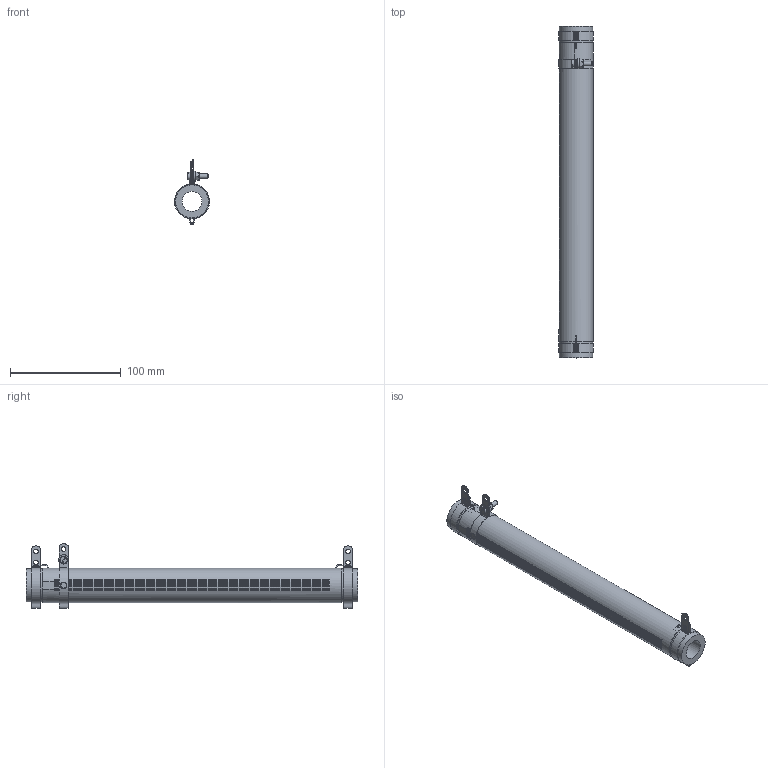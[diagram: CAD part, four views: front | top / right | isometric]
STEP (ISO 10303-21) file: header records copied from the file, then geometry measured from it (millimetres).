
FILE_DESCRIPTION(/* description */ (''),/* implementation_level */ '2;1');
FILE_NAME(/* name */ 'C:\_Vault\Dati\CATALOGO\RC-RS\RCR-RSR TC\RSR TC 300.stp',/* time_stamp */ '2014-03-20T11:36:29+01:00',/* author */ ('stefano'),/* organization */ (''),/* preprocessor_version */ 'ST-DEVELOPER v15.2',/* originating_system */ 'Autodesk Inventor 2014',/* authorisation */ '');
FILE_SCHEMA (('AUTOMOTIVE_DESIGN { 1 0 10303 214 3 1 1 }'));
Length unit declared in the file: millimetre
Products named in the file (1): RSR TC 300
Bounding box: 31.57 x 300 x 58.36 mm (x, y, z)
Volume: 150387.8 mm3; surface area: 51321.8 mm2
Topology: 1 solids, 8 shells, 943 faces, 2754 edges, 1828 vertices
Faces by surface type: plane 686, cylinder 216, cone 17, torus 12, bspline 12
Full cylindrical faces by diameter (mm): 0.4 x2, 0.8 x6, 3.571 x1, 4 x2, 4.2 x9, 4.3 x1, 9 x1, 18 x1, 30 x2, 31 x1
Entity records: 33291 total; most frequent: CARTESIAN_POINT 7000, ORIENTED_EDGE 5396, DIRECTION 5328, EDGE_CURVE 2698, AXIS2_PLACEMENT_3D 1858, VERTEX_POINT 1806, LINE 1612, VECTOR 1612
